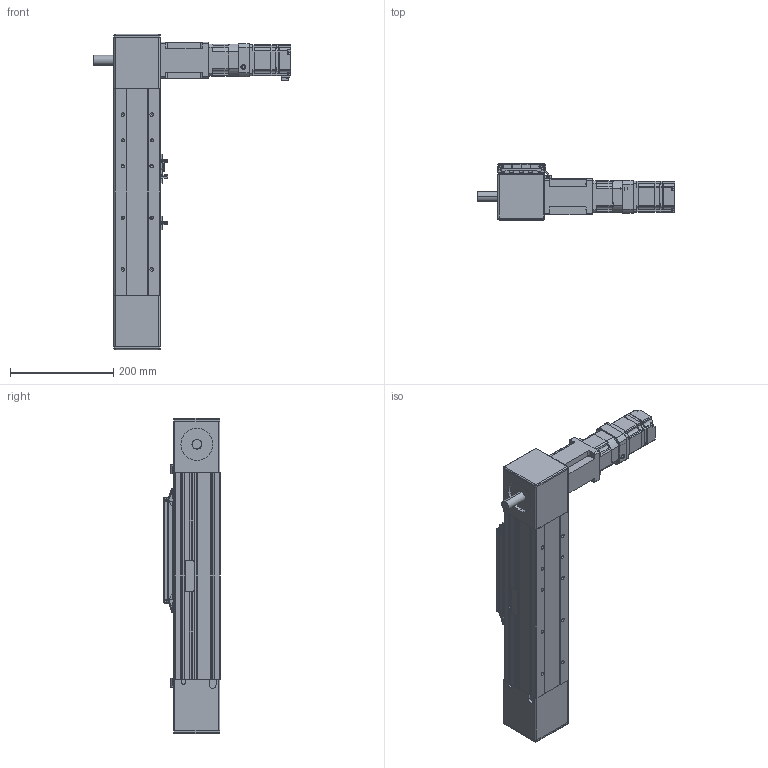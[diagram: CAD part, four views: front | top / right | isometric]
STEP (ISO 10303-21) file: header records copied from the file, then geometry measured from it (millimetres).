
FILE_DESCRIPTION (( 'STEP AP203' ), '1' );
FILE_NAME ('PCB090SDN-0000-ST100-20NR00-N-I3R.STEP', '2015-10-14T09:03:13', ( '' ), ( '' ), 'SwSTEP 2.0', 'SolidWorks 2012', '' );
FILE_SCHEMA (( 'CONFIG_CONTROL_DESIGN' ));
Length unit declared in the file: millimetre
Products named in the file (12): PCB090 Idler Pulley Block; EE_SX672; 090_SLIDER_END_COVER_ANY; PCB090 Drive Pulley Block 1; PCB090 Carrier; PCB090 BASE FRAME-100ST; PCB090SDN-0000-ST100-20NR00-N-I3R; sgmjv_02a_a21; PGX62-H-1_3; jc42c; PCS90 SENSOR DOG; MOTOR BRACKET 62(SHAFT TYPE)
Assembly tree (14 placements, depth 2):
  PCB090SDN-0000-ST100-20NR00-N-I3R
    PCB090 BASE FRAME-100ST
    PCB090 Carrier
    PCB090 Drive Pulley Block 1
    PCB090 Idler Pulley Block
    090_SLIDER_END_COVER_ANY  x2
    EE_SX672  x3
    PCS90 SENSOR DOG
    MOTOR BRACKET 62(SHAFT TYPE)
    PGX62-H-1_3
    jc42c
    sgmjv_02a_a21
Bounding box: 382.1 x 110 x 610 mm (x, y, z)
Volume: 4131399.9 mm3; surface area: 798757.7 mm2
Topology: 38 solids, 39 shells, 2710 faces, 7179 edges, 4600 vertices
Faces by surface type: plane 1402, cylinder 979, cone 197, bspline 112, torus 16, sphere 4
Entity records: 78640 total; most frequent: CARTESIAN_POINT 18604, ORIENTED_EDGE 12268, DIRECTION 12211, EDGE_CURVE 6159, AXIS2_PLACEMENT_3D 4201, VERTEX_POINT 4001, LINE 3809, VECTOR 3809
